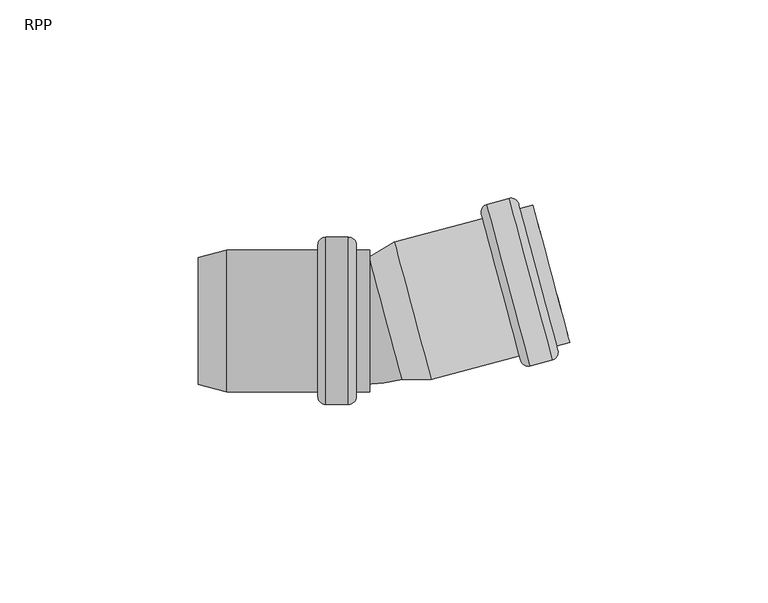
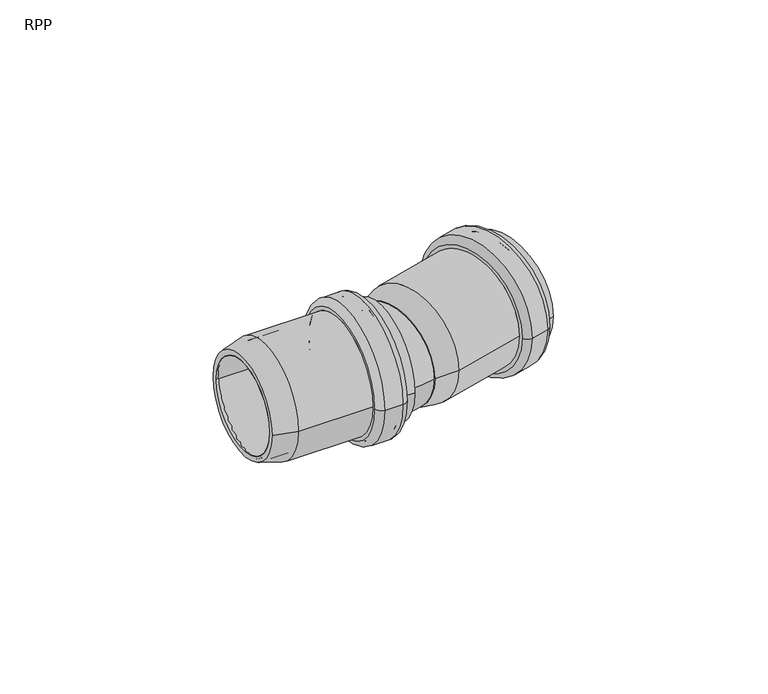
"""IFC4 building model written with IfcOpenShell, lengths in millimetres: pipe fitting geometry, RAUPIANO PLUS Bend : RPP."""

from ifc_helpers import new_model, si_unit, point, frame, origin, place, context, project, spatial, polyline, circle_curve, ellipse_curve, trimmed, source, transform, mapped, element, save
from ifc_brep_helpers import plane_surface, cylinder_surface, revolved_surface, advanced_brep


def rpp_e562054b(model_context):
    return source(origin(), model_context, "Body", "AdvancedBrep", [
        advanced_brep(
        [(-12.93305, -16.3, 0.0), (-12.93305, 16.3, 0.0), (-37.3315094, 16.3, 0.0), (-37.3315094, -16.3, 0.0), (-12.43305, -19.5, 0.0), (-12.43305, 19.5, 0.0), (-12.93305, 19.0, 0.0), (-12.93305, -19.0, 0.0), (-6.93305, -19.5, 0.0), (-6.93305, 19.5, 0.0), (-6.43305, -19.0, 0.0), (-6.43305, 19.0, 0.0), (-1.43305, -16.3, 0.0), (-1.43305, 16.3, 0.0), (-6.43305, 16.3, 0.0), (-6.43305, -16.3, 0.0), (-4.83305, -17.9, 0.0), (-4.83305, 17.9, 0.0), (-1.43305, 17.9, 0.0), (-1.43305, -17.9, 0.0), (-6.83305, -21.1, 0.0), (-6.83305, 21.1, 0.0), (-4.83305, 19.1, 0.0), (-4.83305, -19.1, 0.0), (-12.53305, -21.1, 0.0), (-12.53305, 21.1, 0.0), (-14.53305, -19.1, 0.0), (-14.53305, 19.1, 0.0), (-37.5421534, -17.9, 0.0), (-37.5421534, 17.9, 0.0), (-14.53305, 17.9, 0.0), (-14.53305, -17.9, 0.0), (-44.63305, -16.0, 0.0), (-44.63305, 16.0, 0.0), (-44.63305, 14.3435581, 0.0), (-44.63305, -14.3435581, 0.0)],
        [
            (0, 1, circle_curve(frame((-12.93305, 0.0, 0.0), z_axis=(1.0, 0.0, 0.0), x_axis=(0.0, 1.0, 0.0)), 16.3)),
            (1, 2),
            (2, 3, circle_curve(frame((-37.3315094, 0.0, 0.0), z_axis=(-1.0, 0.0, 0.0), x_axis=(0.0, 1.0, 0.0)), 16.3)),
            (3, 0),
            (4, 5, circle_curve(frame((-12.43305, 0.0, 0.0), z_axis=(1.0, 0.0, 0.0), x_axis=(0.0, 1.0, 0.0)), 19.5)),
            (5, 6, circle_curve(frame((-12.43305, 19.0, 0.0), z_axis=(0.0, 0.0, 1.0), x_axis=(0.0, -1.0, 0.0)), 0.5)),
            (6, 7, circle_curve(frame((-12.93305, 0.0, 0.0), z_axis=(-1.0, 0.0, 0.0), x_axis=(0.0, 1.0, 0.0)), 19.0)),
            (7, 4, circle_curve(frame((-12.43305, -19.0, 0.0), z_axis=(0.0, 0.0, 1.0), x_axis=(0.0, 1.0, 0.0)), 0.5)),
            (8, 9, circle_curve(frame((-6.93305, 0.0, 0.0), z_axis=(1.0, 0.0, 0.0), x_axis=(0.0, 1.0, 0.0)), 19.5)),
            (9, 5),
            (4, 8),
            (10, 11, circle_curve(frame((-6.43305, 0.0, 0.0), z_axis=(1.0, 0.0, 0.0), x_axis=(0.0, 1.0, 0.0)), 19.0)),
            (11, 9, circle_curve(frame((-6.93305, 19.0, 0.0), z_axis=(0.0, 0.0, 1.0), x_axis=(0.0, -1.0, 0.0)), 0.5)),
            (8, 10, circle_curve(frame((-6.93305, -19.0, 0.0), z_axis=(0.0, 0.0, 1.0), x_axis=(0.0, 1.0, 0.0)), 0.5)),
            (12, 13, circle_curve(frame((-1.43305, 0.0, 0.0), z_axis=(1.0, 0.0, 0.0), x_axis=(0.0, 1.0, 0.0)), 16.3)),
            (13, 14),
            (14, 15, circle_curve(frame((-6.43305, 0.0, 0.0), z_axis=(-1.0, 0.0, 0.0), x_axis=(0.0, 1.0, 0.0)), 16.3)),
            (15, 12),
            (16, 17, circle_curve(frame((-4.83305, 0.0, 0.0), z_axis=(1.0, 0.0, 0.0), x_axis=(0.0, 1.0, 0.0)), 17.9)),
            (17, 18),
            (18, 19, circle_curve(frame((-1.43305, 0.0, 0.0), z_axis=(-1.0, 0.0, 0.0), x_axis=(0.0, 1.0, 0.0)), 17.9)),
            (19, 16),
            (20, 21, circle_curve(frame((-6.83305, 0.0, 0.0), z_axis=(1.0, 0.0, 0.0), x_axis=(0.0, 1.0, 0.0)), 21.1)),
            (21, 22, circle_curve(frame((-6.83305, 19.1, 0.0), z_axis=(0.0, 0.0, -1.0), x_axis=(0.0, -1.0, 0.0)), 2.0)),
            (22, 23, circle_curve(frame((-4.83305, 0.0, 0.0), z_axis=(-1.0, 0.0, 0.0), x_axis=(0.0, 1.0, 0.0)), 19.1)),
            (23, 20, circle_curve(frame((-6.83305, -19.1, 0.0), z_axis=(0.0, 0.0, -1.0), x_axis=(0.0, 1.0, 0.0)), 2.0)),
            (24, 25, circle_curve(frame((-12.53305, 0.0, 0.0), z_axis=(1.0, 0.0, 0.0), x_axis=(0.0, 1.0, 0.0)), 21.1)),
            (25, 21),
            (20, 24),
            (26, 27, circle_curve(frame((-14.53305, 0.0, 0.0), z_axis=(1.0, 0.0, 0.0), x_axis=(0.0, 1.0, 0.0)), 19.1)),
            (27, 25, circle_curve(frame((-12.53305, 19.1, 0.0), z_axis=(0.0, 0.0, -1.0), x_axis=(0.0, -1.0, 0.0)), 2.0)),
            (24, 26, circle_curve(frame((-12.53305, -19.1, 0.0), z_axis=(0.0, 0.0, -1.0), x_axis=(0.0, 1.0, 0.0)), 2.0)),
            (28, 29, circle_curve(frame((-37.5421534, 0.0, 0.0), z_axis=(1.0, 0.0, 0.0), x_axis=(0.0, 1.0, 0.0)), 17.9)),
            (29, 30),
            (30, 31, circle_curve(frame((-14.53305, 0.0, 0.0), z_axis=(-1.0, 0.0, 0.0), x_axis=(0.0, 1.0, 0.0)), 17.9)),
            (31, 28),
            (32, 33, circle_curve(frame((-44.63305, 0.0, 0.0), z_axis=(1.0, 0.0, 0.0), x_axis=(0.0, 1.0, 0.0)), 16.0)),
            (33, 29),
            (28, 32),
            (2, 34),
            (34, 35, circle_curve(frame((-44.63305, 0.0, 0.0), z_axis=(-1.0, 0.0, 0.0), x_axis=(0.0, 1.0, 0.0)), 14.3435581)),
            (35, 3),
            (1, 0, circle_curve(frame((-12.93305, 0.0, 0.0), z_axis=(1.0, 0.0, 0.0), x_axis=(0.0, -1.0, 0.0)), 16.3)),
            (3, 2, circle_curve(frame((-37.3315094, 0.0, 0.0), z_axis=(-1.0, 0.0, 0.0), x_axis=(0.0, -1.0, 0.0)), 16.3)),
            (6, 7, circle_curve(frame((-12.93305, 0.0, 0.0), z_axis=(1.0, 0.0, 0.0), x_axis=(0.0, -1.0, 0.0)), 19.0)),
            (5, 4, circle_curve(frame((-12.43305, 0.0, 0.0), z_axis=(1.0, 0.0, 0.0), x_axis=(0.0, -1.0, 0.0)), 19.5)),
            (9, 8, circle_curve(frame((-6.93305, 0.0, 0.0), z_axis=(1.0, 0.0, 0.0), x_axis=(0.0, -1.0, 0.0)), 19.5)),
            (11, 10, circle_curve(frame((-6.43305, 0.0, 0.0), z_axis=(1.0, 0.0, 0.0), x_axis=(0.0, -1.0, 0.0)), 19.0)),
            (14, 15, circle_curve(frame((-6.43305, 0.0, 0.0), z_axis=(1.0, 0.0, 0.0), x_axis=(0.0, -1.0, 0.0)), 16.3)),
            (13, 12, circle_curve(frame((-1.43305, 0.0, 0.0), z_axis=(1.0, 0.0, 0.0), x_axis=(0.0, -1.0, 0.0)), 16.3)),
            (18, 19, circle_curve(frame((-1.43305, 0.0, 0.0), z_axis=(1.0, 0.0, 0.0), x_axis=(0.0, -1.0, 0.0)), 17.9)),
            (17, 16, circle_curve(frame((-4.83305, 0.0, 0.0), z_axis=(1.0, 0.0, 0.0), x_axis=(0.0, -1.0, 0.0)), 17.9)),
            (22, 23, circle_curve(frame((-4.83305, 0.0, 0.0), z_axis=(1.0, 0.0, 0.0), x_axis=(0.0, -1.0, 0.0)), 19.1)),
            (21, 20, circle_curve(frame((-6.83305, 0.0, 0.0), z_axis=(1.0, 0.0, 0.0), x_axis=(0.0, -1.0, 0.0)), 21.1)),
            (25, 24, circle_curve(frame((-12.53305, 0.0, 0.0), z_axis=(1.0, 0.0, 0.0), x_axis=(0.0, -1.0, 0.0)), 21.1)),
            (27, 26, circle_curve(frame((-14.53305, 0.0, 0.0), z_axis=(1.0, 0.0, 0.0), x_axis=(0.0, -1.0, 0.0)), 19.1)),
            (30, 31, circle_curve(frame((-14.53305, 0.0, 0.0), z_axis=(1.0, 0.0, 0.0), x_axis=(0.0, -1.0, 0.0)), 17.9)),
            (29, 28, circle_curve(frame((-37.5421534, 0.0, 0.0), z_axis=(1.0, 0.0, 0.0), x_axis=(0.0, -1.0, 0.0)), 17.9)),
            (33, 32, circle_curve(frame((-44.63305, 0.0, 0.0), z_axis=(1.0, 0.0, 0.0), x_axis=(0.0, -1.0, 0.0)), 16.0)),
            (34, 35, circle_curve(frame((-44.63305, 0.0, 0.0), z_axis=(1.0, 0.0, 0.0), x_axis=(0.0, -1.0, 0.0)), 14.3435581)),
        ],
        [
            revolved_surface(polyline([(-37.3315094, 16.3, 0.0), (-12.933050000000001, 16.3, 0.0)]), (-44.63305, 0.0, 0.0), (-1.0, 0.0, 0.0)),
            revolved_surface(trimmed(ellipse_curve(frame((-12.43305, 19.0, 0.0), z_axis=(0.0, 0.0, -1.0), x_axis=(0.0, -1.0, 0.0)), 0.5, 0.5), [point((-12.93305, 19.0, 0.0))], [point((-12.43305, 19.5, 0.0))], True, "CARTESIAN"), (-44.63305, 0.0, 0.0), (-1.0, 0.0, 0.0)),
            revolved_surface(polyline([(-12.433050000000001, 19.5, 0.0), (-6.9330500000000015, 19.5, 0.0)]), (-44.63305, 0.0, 0.0), (-1.0, 0.0, 0.0)),
            revolved_surface(trimmed(ellipse_curve(frame((-6.93305, 19.0, 0.0), z_axis=(0.0, 0.0, -1.0), x_axis=(0.0, -1.0, 0.0)), 0.5, 0.5), [point((-6.93305, 19.5, 0.0))], [point((-6.43305, 19.0, 0.0))], True, "CARTESIAN"), (-44.63305, 0.0, 0.0), (-1.0, 0.0, 0.0)),
            revolved_surface(polyline([(-6.4330500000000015, 16.3, 0.0), (-1.4330500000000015, 16.3, 0.0)]), (-44.63305, 0.0, 0.0), (-1.0, 0.0, 0.0)),
            cylinder_surface(frame((-44.63305, 0.0, 0.0), z_axis=(-1.0, 0.0, 0.0), x_axis=(0.0, 1.0, 0.0)), 17.9),
            revolved_surface(trimmed(ellipse_curve(frame((-6.83305, 19.1, 0.0), z_axis=(0.0, 0.0, 1.0), x_axis=(0.0, -1.0, 0.0)), 2.0, 2.0), [point((-4.83305, 19.1, 0.0))], [point((-6.83305, 21.1, 0.0))], True, "CARTESIAN"), (-44.63305, 0.0, 0.0), (-1.0, 0.0, 0.0)),
            cylinder_surface(frame((-44.63305, 0.0, 0.0), z_axis=(-1.0, 0.0, 0.0), x_axis=(0.0, 1.0, 0.0)), 21.1),
            revolved_surface(trimmed(ellipse_curve(frame((-12.53305, 19.1, 0.0), z_axis=(0.0, 0.0, 1.0), x_axis=(0.0, -1.0, 0.0)), 2.0, 2.0), [point((-12.53305, 21.1, 0.0))], [point((-14.53305, 19.1, 0.0))], True, "CARTESIAN"), (-44.63305, 0.0, 0.0), (-1.0, 0.0, 0.0)),
            revolved_surface(polyline([(-37.5421534, 17.9, 0.0), (-44.63305, 16.0, 0.0)]), (-44.63305, 0.0, 0.0), (-1.0, 0.0, 0.0)),
            revolved_surface(polyline([(-44.63305, 14.3435581, 0.0), (-37.3315094, 16.3, 0.0)]), (-44.63305, 0.0, 0.0), (-1.0, 0.0, 0.0)),
            revolved_surface(polyline([(-37.3315094, -16.3, 0.0), (-12.933050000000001, -16.3, 0.0)]), (-44.63305, 0.0, 0.0), (-1.0, 0.0, 0.0)),
            plane_surface(frame((-12.93305, 0.0, 0.0), z_axis=(1.0, 0.0, 0.0), x_axis=(0.0, -1.0, 0.0))),
            revolved_surface(trimmed(ellipse_curve(frame((-12.43305, -19.0, 0.0), z_axis=(0.0, 0.0, 1.0), x_axis=(0.0, 1.0, 0.0)), 0.5, 0.5), [point((-12.93305, -19.0, 0.0))], [point((-12.43305, -19.5, 0.0))], True, "CARTESIAN"), (-44.63305, 0.0, 0.0), (-1.0, 0.0, 0.0)),
            revolved_surface(polyline([(-12.433050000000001, -19.5, 0.0), (-6.9330500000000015, -19.5, 0.0)]), (-44.63305, 0.0, 0.0), (-1.0, 0.0, 0.0)),
            revolved_surface(trimmed(ellipse_curve(frame((-6.93305, -19.0, 0.0), z_axis=(0.0, 0.0, 1.0), x_axis=(0.0, 1.0, 0.0)), 0.5, 0.5), [point((-6.93305, -19.5, 0.0))], [point((-6.43305, -19.0, 0.0))], True, "CARTESIAN"), (-44.63305, 0.0, 0.0), (-1.0, 0.0, 0.0)),
            plane_surface(frame((-6.43305, 0.0, 0.0), z_axis=(-1.0, 0.0, 0.0), x_axis=(0.0, -1.0, 0.0))),
            revolved_surface(polyline([(-6.4330500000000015, -16.3, 0.0), (-1.4330500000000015, -16.3, 0.0)]), (-44.63305, 0.0, 0.0), (-1.0, 0.0, 0.0)),
            plane_surface(frame((-1.43305, 0.0, 0.0), z_axis=(1.0, 0.0, 0.0), x_axis=(0.0, -1.0, 0.0))),
            cylinder_surface(frame((-44.63305, 0.0, 0.0), z_axis=(-1.0, 0.0, 0.0), x_axis=(0.0, -1.0, 0.0)), 17.9),
            plane_surface(frame((-4.83305, 0.0, 0.0), z_axis=(1.0, 0.0, 0.0), x_axis=(0.0, -1.0, 0.0))),
            revolved_surface(trimmed(ellipse_curve(frame((-6.83305, -19.1, 0.0), z_axis=(0.0, 0.0, -1.0), x_axis=(0.0, 1.0, 0.0)), 2.0, 2.0), [point((-4.83305, -19.1, 0.0))], [point((-6.83305, -21.1, 0.0))], True, "CARTESIAN"), (-44.63305, 0.0, 0.0), (-1.0, 0.0, 0.0)),
            cylinder_surface(frame((-44.63305, 0.0, 0.0), z_axis=(-1.0, 0.0, 0.0), x_axis=(0.0, -1.0, 0.0)), 21.1),
            revolved_surface(trimmed(ellipse_curve(frame((-12.53305, -19.1, 0.0), z_axis=(0.0, 0.0, -1.0), x_axis=(0.0, 1.0, 0.0)), 2.0, 2.0), [point((-12.53305, -21.1, 0.0))], [point((-14.53305, -19.1, 0.0))], True, "CARTESIAN"), (-44.63305, 0.0, 0.0), (-1.0, 0.0, 0.0)),
            plane_surface(frame((-14.53305, 0.0, 0.0), z_axis=(-1.0, 0.0, 0.0), x_axis=(0.0, -1.0, 0.0))),
            revolved_surface(polyline([(-37.5421534, -17.9, 0.0), (-44.63305, -16.0, 0.0)]), (-44.63305, 0.0, 0.0), (-1.0, 0.0, 0.0)),
            plane_surface(frame((-44.63305, 0.0, 0.0), z_axis=(-1.0, 0.0, 0.0), x_axis=(0.0, -1.0, 0.0))),
            revolved_surface(polyline([(-44.63305, -14.3435581, 0.0), (-37.3315094, -16.3, 0.0)]), (-44.63305, 0.0, 0.0), (-1.0, 0.0, 0.0)),
        ],
        [
            (0, [[1, 2, 3, 4]]),
            (1, [[5, 6, 7, 8]]),
            (2, [[9, 10, -5, 11]]),
            (3, [[12, 13, -9, 14]]),
            (4, [[15, 16, 17, 18]]),
            (5, [[19, 20, 21, 22]]),
            (6, [[23, 24, 25, 26]]),
            (7, [[27, 28, -23, 29]]),
            (8, [[30, 31, -27, 32]]),
            (5, [[33, 34, 35, 36]]),
            (9, [[37, 38, -33, 39]]),
            (10, [[-3, 40, 41, 42]]),
            (11, [[43, -4, 44, -2]]),
            (12, [[45, -7], [-43, -1]]),
            (13, [[46, -8, -45, -6]]),
            (14, [[47, -11, -46, -10]]),
            (15, [[48, -14, -47, -13]]),
            (16, [[-48, -12], [49, -17]]),
            (17, [[50, -18, -49, -16]]),
            (18, [[51, -21], [-50, -15]]),
            (19, [[52, -22, -51, -20]]),
            (20, [[53, -25], [-52, -19]]),
            (21, [[54, -26, -53, -24]]),
            (22, [[55, -29, -54, -28]]),
            (23, [[56, -32, -55, -31]]),
            (24, [[-56, -30], [57, -35]]),
            (19, [[58, -36, -57, -34]]),
            (25, [[59, -39, -58, -38]]),
            (26, [[-59, -37], [60, -41]]),
            (27, [[-44, -42, -60, -40]]),
        ],
    ),
        advanced_brep(
        [(6.255717, -13.1733297, 0.0), (-1.1690551, 14.5362967, 0.0), (5.3773271, 18.3158522, 0.0), (13.814828, -13.1733297, 0.0), (14.025472, -14.7733297, 0.0), (4.7597501, 19.8068148, 0.0), (-1.5977738, 16.1362967, 0.0), (6.6844357, -14.7733297, 0.0), (36.2505592, -8.8181356, 0.0), (26.9848374, 25.762009, 0.0), (44.516409, -9.9161916, 0.0), (33.5942453, 30.8458783, 0.0), (28.0884681, 29.3706098, 0.0), (39.0106318, -11.3914601, 0.0), (48.9041876, -5.4276061, 0.0), (39.6384657, 29.1525385, 0.0), (36.3543179, 28.2725538, 0.0), (45.6200397, -6.3075908, 0.0), (43.6604479, -5.17622, 0.0), (35.2229471, 26.312962, 0.0), (40.0525762, 27.6070572, 0.0), (48.4900771, -3.8821247, 0.0), (38.6931139, -9.8200969, 0.0), (28.5991712, 27.8510103, 0.0), (33.9117632, 29.2745151, 0.0), (44.005706, -8.3965921, 0.0), (28.9444292, 24.6306382, 0.0), (37.3819301, -6.8585438, 0.0), (26.6742546, 26.92112, 0.0), (36.5611421, -9.9772466, 0.0), (45.9306226, -7.4667018, 0.0), (36.0437351, 29.4316648, 0.0), (34.5241357, 28.9209617, 0.0), (44.3592594, -7.7842197, 0.0), (38.0807415, -9.4665435, 0.0), (28.2456178, 27.2386379, 0.0)],
        [
            (0, 1, circle_curve(frame((2.543331, 0.6814835, 0.0), z_axis=(-0.965925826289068, -0.25881904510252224, 0.0), x_axis=(-0.25881904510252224, 0.965925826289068, 0.0)), 14.3435581)),
            (1, 2),
            (2, 3, circle_curve(frame((9.5960775, 2.5712612, 0.0), z_axis=(0.965925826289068, 0.25881904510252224, 0.0), x_axis=(-0.25881904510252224, 0.965925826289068, 0.0)), 16.3)),
            (3, 0),
            (4, 5, circle_curve(frame((9.392611, 2.5167425, 0.0), z_axis=(-0.965925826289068, -0.25881904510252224, 0.0), x_axis=(-0.25881904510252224, 0.965925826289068, 0.0)), 17.9)),
            (5, 6),
            (6, 7, circle_curve(frame((2.543331, 0.6814835, 0.0), z_axis=(0.965925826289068, 0.25881904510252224, 0.0), x_axis=(-0.25881904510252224, 0.965925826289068, 0.0)), 16.0)),
            (7, 4),
            (8, 9, circle_curve(frame((31.6176983, 8.4719367, 0.0), z_axis=(-0.965925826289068, -0.25881904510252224, 0.0), x_axis=(-0.25881904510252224, 0.965925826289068, 0.0)), 17.9)),
            (9, 5),
            (4, 8),
            (10, 11, circle_curve(frame((39.0553272, 10.4648434, 0.0), z_axis=(-0.965925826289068, -0.25881904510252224, 0.0), x_axis=(-0.25881904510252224, 0.965925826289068, 0.0)), 21.1)),
            (11, 12),
            (12, 13, circle_curve(frame((33.54955, 8.9895748, 0.0), z_axis=(0.965925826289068, 0.25881904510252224, 0.0), x_axis=(-0.25881904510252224, 0.965925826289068, 0.0)), 21.1)),
            (13, 10),
            (14, 15, circle_curve(frame((44.2713266, 11.8624662, 0.0), z_axis=(-0.965925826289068, -0.25881904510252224, 0.0), x_axis=(-0.25881904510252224, 0.965925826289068, 0.0)), 17.9)),
            (15, 16),
            (16, 17, circle_curve(frame((40.9871788, 10.9824815, 0.0), z_axis=(0.965925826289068, 0.25881904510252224, 0.0), x_axis=(-0.25881904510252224, 0.965925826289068, 0.0)), 17.9)),
            (17, 14),
            (18, 19, circle_curve(frame((39.4416975, 10.568371, 0.0), z_axis=(-0.965925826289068, -0.25881904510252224, 0.0), x_axis=(-0.25881904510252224, 0.965925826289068, 0.0)), 16.3)),
            (19, 20),
            (20, 21, circle_curve(frame((44.2713266, 11.8624662, 0.0), z_axis=(0.965925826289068, 0.25881904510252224, 0.0), x_axis=(-0.25881904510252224, 0.965925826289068, 0.0)), 16.3)),
            (21, 18),
            (22, 23, circle_curve(frame((33.6461426, 9.0154567, 0.0), z_axis=(-0.965925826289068, -0.25881904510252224, 0.0), x_axis=(-0.25881904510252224, 0.965925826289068, 0.0)), 19.5)),
            (23, 24),
            (24, 25, circle_curve(frame((38.9587346, 10.4389615, 0.0), z_axis=(0.965925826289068, 0.25881904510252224, 0.0), x_axis=(-0.25881904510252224, 0.965925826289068, 0.0)), 19.5)),
            (25, 22),
            (2, 26),
            (26, 27, circle_curve(frame((33.1631796, 8.8860472, 0.0), z_axis=(0.965925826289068, 0.25881904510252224, 0.0), x_axis=(-0.25881904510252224, 0.965925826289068, 0.0)), 16.3)),
            (27, 3),
            (1, 0, circle_curve(frame((2.543331, 0.6814835, 0.0), z_axis=(-0.965925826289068, -0.25881904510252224, 0.0), x_axis=(0.25881904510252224, -0.965925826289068, 0.0)), 14.3435581)),
            (3, 2, circle_curve(frame((9.5960775, 2.5712612, 0.0), z_axis=(0.965925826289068, 0.25881904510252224, 0.0), x_axis=(0.25881904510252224, -0.965925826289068, 0.0)), 16.3)),
            (6, 7, circle_curve(frame((2.543331, 0.6814835, 0.0), z_axis=(-0.965925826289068, -0.25881904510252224, 0.0), x_axis=(0.25881904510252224, -0.965925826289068, 0.0)), 16.0)),
            (5, 4, circle_curve(frame((9.392611, 2.5167425, 0.0), z_axis=(-0.965925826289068, -0.25881904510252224, 0.0), x_axis=(0.25881904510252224, -0.965925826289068, 0.0)), 17.9)),
            (9, 8, circle_curve(frame((31.6176983, 8.4719367, 0.0), z_axis=(-0.965925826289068, -0.25881904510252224, 0.0), x_axis=(0.25881904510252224, -0.965925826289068, 0.0)), 17.9)),
            (28, 29, circle_curve(frame((31.6176983, 8.4719367, 0.0), z_axis=(-0.965925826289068, -0.25881904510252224, 0.0), x_axis=(0.25881904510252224, -0.965925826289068, 0.0)), 19.1)),
            (29, 28, circle_curve(frame((31.6176983, 8.4719367, 0.0), z_axis=(-0.965925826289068, -0.25881904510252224, 0.0), x_axis=(-0.25881904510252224, 0.965925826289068, 0.0)), 19.1)),
            (11, 10, circle_curve(frame((39.0553272, 10.4648434, 0.0), z_axis=(-0.965925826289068, -0.25881904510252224, 0.0), x_axis=(0.25881904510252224, -0.965925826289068, 0.0)), 21.1)),
            (13, 12, circle_curve(frame((33.54955, 8.9895748, 0.0), z_axis=(0.965925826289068, 0.25881904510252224, 0.0), x_axis=(0.25881904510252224, -0.965925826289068, 0.0)), 21.1)),
            (30, 31, circle_curve(frame((40.9871788, 10.9824815, 0.0), z_axis=(0.965925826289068, 0.25881904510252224, 0.0), x_axis=(0.25881904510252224, -0.965925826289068, 0.0)), 19.1)),
            (31, 30, circle_curve(frame((40.9871788, 10.9824815, 0.0), z_axis=(0.965925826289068, 0.25881904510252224, 0.0), x_axis=(-0.25881904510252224, 0.965925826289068, 0.0)), 19.1)),
            (16, 17, circle_curve(frame((40.9871788, 10.9824815, 0.0), z_axis=(-0.965925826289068, -0.25881904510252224, 0.0), x_axis=(0.25881904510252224, -0.965925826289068, 0.0)), 17.9)),
            (15, 14, circle_curve(frame((44.2713266, 11.8624662, 0.0), z_axis=(-0.965925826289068, -0.25881904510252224, 0.0), x_axis=(0.25881904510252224, -0.965925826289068, 0.0)), 17.9)),
            (20, 21, circle_curve(frame((44.2713266, 11.8624662, 0.0), z_axis=(-0.965925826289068, -0.25881904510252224, 0.0), x_axis=(0.25881904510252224, -0.965925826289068, 0.0)), 16.3)),
            (19, 18, circle_curve(frame((39.4416975, 10.568371, 0.0), z_axis=(-0.965925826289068, -0.25881904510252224, 0.0), x_axis=(0.25881904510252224, -0.965925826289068, 0.0)), 16.3)),
            (32, 33, circle_curve(frame((39.4416975, 10.568371, 0.0), z_axis=(-0.965925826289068, -0.25881904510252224, 0.0), x_axis=(0.25881904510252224, -0.965925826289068, 0.0)), 19.0)),
            (33, 32, circle_curve(frame((39.4416975, 10.568371, 0.0), z_axis=(-0.965925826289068, -0.25881904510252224, 0.0), x_axis=(-0.25881904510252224, 0.965925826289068, 0.0)), 19.0)),
            (23, 22, circle_curve(frame((33.6461426, 9.0154567, 0.0), z_axis=(-0.965925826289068, -0.25881904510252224, 0.0), x_axis=(0.25881904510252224, -0.965925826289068, 0.0)), 19.5)),
            (25, 24, circle_curve(frame((38.9587346, 10.4389615, 0.0), z_axis=(0.965925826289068, 0.25881904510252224, 0.0), x_axis=(0.25881904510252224, -0.965925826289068, 0.0)), 19.5)),
            (34, 35, circle_curve(frame((33.1631796, 8.8860472, 0.0), z_axis=(0.965925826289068, 0.25881904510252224, 0.0), x_axis=(0.25881904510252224, -0.965925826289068, 0.0)), 19.0)),
            (35, 34, circle_curve(frame((33.1631796, 8.8860472, 0.0), z_axis=(0.965925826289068, 0.25881904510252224, 0.0), x_axis=(-0.25881904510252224, 0.965925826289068, 0.0)), 19.0)),
            (26, 27, circle_curve(frame((33.1631796, 8.8860472, 0.0), z_axis=(-0.965925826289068, -0.25881904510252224, 0.0), x_axis=(0.25881904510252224, -0.965925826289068, 0.0)), 16.3)),
            (12, 28, circle_curve(frame((28.6061062, 27.4387581, 0.0), z_axis=(0.0, 0.0, 1.0000000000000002), x_axis=(0.25881904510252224, -0.965925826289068, 0.0)), 2.0)),
            (29, 13, circle_curve(frame((38.4929937, -9.4596085, 0.0), z_axis=(0.0, 0.0, 1.0000000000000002), x_axis=(-0.25881904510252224, 0.965925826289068, 0.0)), 2.0)),
            (31, 11, circle_curve(frame((34.1118834, 28.9140267, 0.0), z_axis=(0.0, 0.0, 1.0000000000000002), x_axis=(0.25881904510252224, -0.965925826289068, 0.0)), 2.0)),
            (10, 30, circle_curve(frame((43.9987709, -7.9843399, 0.0), z_axis=(0.0, 0.0, 1.0000000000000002), x_axis=(-0.25881904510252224, 0.965925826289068, 0.0)), 2.0)),
            (24, 32, circle_curve(frame((34.0411727, 28.7915522, 0.0), z_axis=(0.0, 0.0, -1.0000000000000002), x_axis=(0.25881904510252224, -0.965925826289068, 0.0)), 0.5)),
            (33, 25, circle_curve(frame((43.8762965, -7.9136292, 0.0), z_axis=(0.0, 0.0, -1.0000000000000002), x_axis=(-0.25881904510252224, 0.965925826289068, 0.0)), 0.5)),
            (35, 23, circle_curve(frame((28.7285807, 27.3680474, 0.0), z_axis=(0.0, 0.0, -1.0000000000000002), x_axis=(0.25881904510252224, -0.965925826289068, 0.0)), 0.5)),
            (22, 34, circle_curve(frame((38.5637044, -9.337134, 0.0), z_axis=(0.0, 0.0, -1.0000000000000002), x_axis=(-0.25881904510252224, 0.965925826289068, 0.0)), 0.5)),
        ],
        [
            revolved_surface(polyline([(5.3773271, 18.3158522, 0.0), (-1.1690551, 14.5362967, 0.0)]), (2.543331, 0.6814835, 0.0), (0.965925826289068, 0.25881904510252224, 0.0)),
            revolved_surface(polyline([(-1.5977738, 16.1362967, 0.0), (4.7597501, 19.8068148, 0.0)]), (2.543331, 0.6814835, 0.0), (0.965925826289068, 0.25881904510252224, 0.0)),
            cylinder_surface(frame((2.543331, 0.6814835, 0.0), z_axis=(0.965925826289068, 0.25881904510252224, 0.0), x_axis=(-0.25881904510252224, 0.965925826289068, 0.0)), 17.9),
            cylinder_surface(frame((2.543331, 0.6814835, 0.0), z_axis=(0.965925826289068, 0.25881904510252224, 0.0), x_axis=(-0.25881904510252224, 0.965925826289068, 0.0)), 21.1),
            revolved_surface(polyline([(40.05257623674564, 27.60705721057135, 0.0), (35.222947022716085, 26.312961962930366, 0.0)]), (2.543331, 0.6814835, 0.0), (0.965925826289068, 0.25881904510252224, 0.0)),
            revolved_surface(polyline([(33.91176324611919, 29.274515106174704, 0.0), (28.599171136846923, 27.85101034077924, 0.0)]), (2.543331, 0.6814835, 0.0), (0.965925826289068, 0.25881904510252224, 0.0)),
            revolved_surface(polyline([(28.944429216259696, 24.630638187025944, 0.0), (5.377327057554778, 18.315852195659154, 0.0)]), (2.543331, 0.6814835, 0.0), (0.965925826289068, 0.25881904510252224, 0.0)),
            revolved_surface(polyline([(13.814828, -13.1733297, 0.0), (6.255717, -13.1733297, 0.0)]), (2.543331, 0.6814835, 0.0), (0.965925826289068, 0.25881904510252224, 0.0)),
            plane_surface(frame((2.543331, 0.6814835, 0.0), z_axis=(-0.965925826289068, -0.25881904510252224, 0.0), x_axis=(0.25881904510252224, -0.965925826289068, 0.0))),
            revolved_surface(polyline([(6.6844357, -14.7733297, 0.0), (14.025472, -14.7733297, 0.0)]), (2.543331, 0.6814835, 0.0), (0.965925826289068, 0.25881904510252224, 0.0)),
            cylinder_surface(frame((2.543331, 0.6814835, 0.0), z_axis=(0.965925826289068, 0.25881904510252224, 0.0), x_axis=(0.25881904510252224, -0.965925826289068, 0.0)), 17.9),
            plane_surface(frame((31.6176983, 8.4719367, 0.0), z_axis=(-0.965925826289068, -0.25881904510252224, 0.0), x_axis=(0.25881904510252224, -0.965925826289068, 0.0))),
            cylinder_surface(frame((2.543331, 0.6814835, 0.0), z_axis=(0.965925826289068, 0.25881904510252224, 0.0), x_axis=(0.25881904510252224, -0.965925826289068, 0.0)), 21.1),
            plane_surface(frame((40.9871788, 10.9824815, 0.0), z_axis=(0.965925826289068, 0.25881904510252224, 0.0), x_axis=(0.25881904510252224, -0.965925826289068, 0.0))),
            plane_surface(frame((44.2713266, 11.8624662, 0.0), z_axis=(0.965925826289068, 0.25881904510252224, 0.0), x_axis=(0.25881904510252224, -0.965925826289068, 0.0))),
            revolved_surface(polyline([(48.49007710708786, -3.882124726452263, 0.0), (43.66044789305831, -5.176219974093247, 0.0)]), (2.543331, 0.6814835, 0.0), (0.965925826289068, 0.25881904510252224, 0.0)),
            plane_surface(frame((39.4416975, 10.568371, 0.0), z_axis=(-0.965925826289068, -0.25881904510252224, 0.0), x_axis=(0.25881904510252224, -0.965925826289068, 0.0))),
            revolved_surface(polyline([(44.00570600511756, -8.396592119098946, 0.0), (38.69311389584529, -9.820096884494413, 0.0)]), (2.543331, 0.6814835, 0.0), (0.965925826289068, 0.25881904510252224, 0.0)),
            plane_surface(frame((33.1631796, 8.8860472, 0.0), z_axis=(0.965925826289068, 0.25881904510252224, 0.0), x_axis=(0.25881904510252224, -0.965925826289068, 0.0))),
            revolved_surface(polyline([(37.38193008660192, -6.858543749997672, 0.0), (13.814827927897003, -13.17332974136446, 0.0)]), (2.543331, 0.6814835, 0.0), (0.965925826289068, 0.25881904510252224, 0.0)),
            revolved_surface(trimmed(ellipse_curve(frame((28.6061062, 27.4387581, 0.0), z_axis=(0.0, 0.0, -1.0000000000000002), x_axis=(0.25881904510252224, -0.965925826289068, 0.0)), 2.0, 2.0), [point((26.6742546, 26.92112, 0.0))], [point((28.0884681, 29.3706098, 0.0))], True, "CARTESIAN"), (2.543331, 0.6814835, 0.0), (0.965925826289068, 0.25881904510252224, 0.0)),
            revolved_surface(trimmed(ellipse_curve(frame((34.1118834, 28.9140267, 0.0), z_axis=(0.0, 0.0, -1.0000000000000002), x_axis=(0.25881904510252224, -0.965925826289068, 0.0)), 2.0, 2.0), [point((33.5942453, 30.8458783, 0.0))], [point((36.0437351, 29.4316648, 0.0))], True, "CARTESIAN"), (2.543331, 0.6814835, 0.0), (0.965925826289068, 0.25881904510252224, 0.0)),
            revolved_surface(trimmed(ellipse_curve(frame((34.0411727, 28.7915522, 0.0), z_axis=(0.0, 0.0, 1.0000000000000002), x_axis=(0.25881904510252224, -0.965925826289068, 0.0)), 0.5, 0.5), [point((34.5241357, 28.9209617, 0.0))], [point((33.9117632, 29.2745151, 0.0))], True, "CARTESIAN"), (2.543331, 0.6814835, 0.0), (0.965925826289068, 0.25881904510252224, 0.0)),
            revolved_surface(trimmed(ellipse_curve(frame((28.7285807, 27.3680474, 0.0), z_axis=(0.0, 0.0, 1.0000000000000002), x_axis=(0.25881904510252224, -0.965925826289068, 0.0)), 0.5, 0.5), [point((28.5991712, 27.8510103, 0.0))], [point((28.2456178, 27.2386379, 0.0))], True, "CARTESIAN"), (2.543331, 0.6814835, 0.0), (0.965925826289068, 0.25881904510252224, 0.0)),
            revolved_surface(trimmed(ellipse_curve(frame((38.4929937, -9.4596085, 0.0), z_axis=(0.0, 0.0, 1.0000000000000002), x_axis=(-0.2588190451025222, 0.965925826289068, 0.0)), 2.0, 2.0), [point((36.5611421, -9.9772466, 0.0))], [point((39.0106318, -11.3914601, 0.0))], True, "CARTESIAN"), (2.543331, 0.6814835, 0.0), (0.965925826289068, 0.25881904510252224, 0.0)),
            revolved_surface(trimmed(ellipse_curve(frame((43.9987709, -7.9843399, 0.0), z_axis=(0.0, 0.0, 1.0000000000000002), x_axis=(-0.2588190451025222, 0.965925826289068, 0.0)), 2.0, 2.0), [point((44.516409, -9.9161916, 0.0))], [point((45.9306226, -7.4667018, 0.0))], True, "CARTESIAN"), (2.543331, 0.6814835, 0.0), (0.965925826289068, 0.25881904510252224, 0.0)),
            revolved_surface(trimmed(ellipse_curve(frame((43.8762965, -7.9136292, 0.0), z_axis=(0.0, 0.0, -1.0000000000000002), x_axis=(-0.2588190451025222, 0.965925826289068, 0.0)), 0.5, 0.5), [point((44.3592594, -7.7842197, 0.0))], [point((44.005706, -8.3965921, 0.0))], True, "CARTESIAN"), (2.543331, 0.6814835, 0.0), (0.965925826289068, 0.25881904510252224, 0.0)),
            revolved_surface(trimmed(ellipse_curve(frame((38.5637044, -9.337134, 0.0), z_axis=(0.0, 0.0, -1.0000000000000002), x_axis=(-0.2588190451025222, 0.965925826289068, 0.0)), 0.5, 0.5), [point((38.6931139, -9.8200969, 0.0))], [point((38.0807415, -9.4665435, 0.0))], True, "CARTESIAN"), (2.543331, 0.6814835, 0.0), (0.965925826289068, 0.25881904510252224, 0.0)),
        ],
        [
            (0, [[1, 2, 3, 4]]),
            (1, [[5, 6, 7, 8]]),
            (2, [[9, 10, -5, 11]]),
            (3, [[12, 13, 14, 15]]),
            (2, [[16, 17, 18, 19]]),
            (4, [[20, 21, 22, 23]]),
            (5, [[24, 25, 26, 27]]),
            (6, [[-3, 28, 29, 30]]),
            (7, [[31, -4, 32, -2]]),
            (8, [[33, -7], [-31, -1]]),
            (9, [[34, -8, -33, -6]]),
            (10, [[35, -11, -34, -10]]),
            (11, [[36, 37], [-35, -9]]),
            (12, [[38, -15, 39, -13]]),
            (13, [[40, 41], [42, -18]]),
            (10, [[43, -19, -42, -17]]),
            (14, [[-43, -16], [44, -22]]),
            (15, [[45, -23, -44, -21]]),
            (16, [[46, 47], [-45, -20]]),
            (17, [[48, -27, 49, -25]]),
            (18, [[50, 51], [52, -29]]),
            (19, [[-32, -30, -52, -28]]),
            (20, [[-14, 53, -37, 54]]),
            (21, [[-41, 55, -12, 56]]),
            (22, [[-26, 57, -47, 58]]),
            (23, [[-51, 59, -24, 60]]),
            (24, [[-39, -54, -36, -53]]),
            (25, [[-40, -56, -38, -55]]),
            (26, [[-49, -58, -46, -57]]),
            (27, [[-50, -60, -48, -59]]),
        ],
    ),
        advanced_brep(
        [(-2.63305, 14.2, 0.0), (-2.63305, -14.2, 0.0), (-44.63305, -14.2, 0.0), (-44.63305, 14.2, 0.0), (-40.9009991, 16.0, 0.0), (-40.9009991, -16.0, 0.0), (-2.63305, -16.0, 0.0), (-2.63305, 16.0, 0.0), (-44.63305, 15.0, 0.0), (-44.63305, -15.0, 0.0)],
        [
            (0, 1, circle_curve(frame((-2.63305, 0.0, 0.0), z_axis=(1.0, 0.0, 0.0), x_axis=(0.0, -1.0, 0.0)), 14.2)),
            (1, 2),
            (2, 3, circle_curve(frame((-44.63305, 0.0, 0.0), z_axis=(-1.0, 0.0, 0.0), x_axis=(0.0, -1.0, 0.0)), 14.2)),
            (3, 0),
            (4, 5, circle_curve(frame((-40.9009991, 0.0, 0.0), z_axis=(1.0, 0.0, 0.0), x_axis=(0.0, -1.0, 0.0)), 16.0)),
            (5, 6),
            (6, 7, circle_curve(frame((-2.63305, 0.0, 0.0), z_axis=(-1.0, 0.0, 0.0), x_axis=(0.0, -1.0, 0.0)), 16.0)),
            (7, 4),
            (8, 9, circle_curve(frame((-44.63305, 0.0, 0.0), z_axis=(1.0, 0.0, 0.0), x_axis=(0.0, -1.0, 0.0)), 15.0)),
            (9, 5),
            (4, 8),
            (1, 0, circle_curve(frame((-2.63305, 0.0, 0.0), z_axis=(1.0, 0.0, 0.0), x_axis=(0.0, 1.0, 0.0)), 14.2)),
            (3, 2, circle_curve(frame((-44.63305, 0.0, 0.0), z_axis=(-1.0, 0.0, 0.0), x_axis=(0.0, 1.0, 0.0)), 14.2)),
            (6, 7, circle_curve(frame((-2.63305, 0.0, 0.0), z_axis=(1.0, 0.0, 0.0), x_axis=(0.0, 1.0, 0.0)), 16.0)),
            (5, 4, circle_curve(frame((-40.9009991, 0.0, 0.0), z_axis=(1.0, 0.0, 0.0), x_axis=(0.0, 1.0, 0.0)), 16.0)),
            (9, 8, circle_curve(frame((-44.63305, 0.0, 0.0), z_axis=(1.0, 0.0, 0.0), x_axis=(0.0, 1.0, 0.0)), 15.0)),
        ],
        [
            revolved_surface(polyline([(-44.63305, -14.2, 0.0), (-2.63305, -14.2, 0.0)]), (-2.63305, 0.0, 0.0), (-1.0, 0.0, 0.0)),
            cylinder_surface(frame((-2.63305, 0.0, 0.0), z_axis=(-1.0, 0.0, 0.0), x_axis=(0.0, -1.0, 0.0)), 16.0),
            revolved_surface(polyline([(-40.9009991, -16.0, 0.0), (-44.63305, -15.0, 0.0)]), (-2.63305, 0.0, 0.0), (-1.0, 0.0, 0.0)),
            revolved_surface(polyline([(-44.63305, 14.2, 0.0), (-2.63305, 14.2, 0.0)]), (-2.63305, 0.0, 0.0), (-1.0, 0.0, 0.0)),
            plane_surface(frame((-2.63305, 0.0, 0.0), z_axis=(1.0, 0.0, 0.0), x_axis=(0.0, 1.0, 0.0))),
            cylinder_surface(frame((-2.63305, 0.0, 0.0), z_axis=(-1.0, 0.0, 0.0), x_axis=(0.0, 1.0, 0.0)), 16.0),
            revolved_surface(polyline([(-40.9009991, 16.0, 0.0), (-44.63305, 15.0, 0.0)]), (-2.63305, 0.0, 0.0), (-1.0, 0.0, 0.0)),
            plane_surface(frame((-44.63305, 0.0, 0.0), z_axis=(-1.0, 0.0, 0.0), x_axis=(0.0, 1.0, 0.0))),
        ],
        [
            (0, [[1, 2, 3, 4]]),
            (1, [[5, 6, 7, 8]]),
            (2, [[9, 10, -5, 11]]),
            (3, [[12, -4, 13, -2]]),
            (4, [[14, -7], [-12, -1]]),
            (5, [[15, -8, -14, -6]]),
            (6, [[16, -11, -15, -10]]),
            (7, [[-16, -9], [-13, -3]]),
        ],
    ),
        advanced_brep(
        [(-2.63305, -16.0, 0.0), (-2.63305, 16.0, 0.0), (-2.63305, -14.2, 0.0), (-2.63305, 14.2, 0.0), (6.6844357, -14.7733297, 0.0), (-1.5977738, 16.1362967, 0.0), (6.2185614, -13.0346633, 0.0), (-1.1318995, 14.3976302, 0.0)],
        [
            (0, 1, circle_curve(frame((-2.63305, 0.0, 0.0), z_axis=(-1.0, 0.0, 0.0), x_axis=(0.0, 1.0, 0.0)), 16.0)),
            (1, 0, circle_curve(frame((-2.63305, 0.0, 0.0), z_axis=(-1.0, 0.0, 0.0), x_axis=(0.0, 1.0, 0.0)), 16.0)),
            (2, 3, circle_curve(frame((-2.63305, 0.0, 0.0), z_axis=(1.0, 0.0, 0.0), x_axis=(0.0, 1.0, 0.0)), 14.2)),
            (3, 2, circle_curve(frame((-2.63305, 0.0, 0.0), z_axis=(1.0, 0.0, 0.0), x_axis=(0.0, 1.0, 0.0)), 14.2)),
            (4, 5, circle_curve(frame((2.543331, 0.6814835, 0.0), z_axis=(0.9659258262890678, 0.25881904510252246, 0.0), x_axis=(-0.25881904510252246, 0.9659258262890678, 0.0)), 16.0)),
            (5, 4, circle_curve(frame((2.543331, 0.6814835, 0.0), z_axis=(0.9659258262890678, 0.25881904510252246, 0.0), x_axis=(-0.25881904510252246, 0.9659258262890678, 0.0)), 16.0)),
            (6, 7, circle_curve(frame((2.543331, 0.6814835, 0.0), z_axis=(-0.9659258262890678, -0.25881904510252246, 0.0), x_axis=(-0.25881904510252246, 0.9659258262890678, 0.0)), 14.2)),
            (7, 6, circle_curve(frame((2.543331, 0.6814835, 0.0), z_axis=(-0.9659258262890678, -0.25881904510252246, 0.0), x_axis=(-0.25881904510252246, 0.9659258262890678, 0.0)), 14.2)),
            (7, 3, circle_curve(frame((-2.63305, 20.0, 0.0), z_axis=(0.0, 0.0, -1.0), x_axis=(0.0, -1.0, 0.0)), 5.8)),
            (2, 6, circle_curve(frame((-2.63305, 20.0, 0.0), z_axis=(0.0, 0.0, 1.0), x_axis=(0.0, -1.0, 0.0)), 34.2)),
            (5, 1, circle_curve(frame((-2.63305, 20.0, 0.0), z_axis=(0.0, 0.0, -1.0), x_axis=(0.0, -1.0, 0.0)), 4.0)),
            (0, 4, circle_curve(frame((-2.63305, 20.0, 0.0), z_axis=(0.0, 0.0, 1.0), x_axis=(0.0, -1.0, 0.0)), 36.0)),
        ],
        [
            plane_surface(frame((-2.63305, 0.0, 0.0), z_axis=(-1.0, 0.0, 0.0), x_axis=(0.0, 0.0, 1.0))),
            plane_surface(frame((2.543331, 0.6814835, 0.0), z_axis=(0.9659258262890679, 0.2588190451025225, 0.0), x_axis=(0.0, 0.0, 1.0))),
            revolved_surface(trimmed(ellipse_curve(frame((-2.63305, 0.0, 0.0), z_axis=(1.0, 0.0, 0.0), x_axis=(0.0, 1.0, 0.0)), 14.2, 14.2), [point((-2.63305, -14.2, 0.0))], [point((-2.63305, 14.2, 0.0))], True, "CARTESIAN"), (-2.63305, 20.0, 0.0), (0.0, 0.0, 1.0)),
            revolved_surface(trimmed(ellipse_curve(frame((-2.63305, 0.0, 0.0), z_axis=(1.0, 0.0, 0.0), x_axis=(0.0, 1.0, 0.0)), 14.2, 14.2), [point((-2.63305, 14.2, 0.0))], [point((-2.63305, -14.2, 0.0))], True, "CARTESIAN"), (-2.63305, 20.0, 0.0), (0.0, 0.0, 1.0)),
            revolved_surface(trimmed(ellipse_curve(frame((-2.63305, 0.0, 0.0), z_axis=(-1.0, 0.0, 0.0), x_axis=(0.0, 1.0, 0.0)), 16.0, 16.0), [point((-2.63305, -16.0, 0.0))], [point((-2.63305, 16.0, 0.0))], True, "CARTESIAN"), (-2.63305, 20.0, 0.0), (0.0, 0.0, 1.0)),
            revolved_surface(trimmed(ellipse_curve(frame((-2.63305, 0.0, 0.0), z_axis=(-1.0, 0.0, 0.0), x_axis=(0.0, 1.0, 0.0)), 16.0, 16.0), [point((-2.63305, 16.0, 0.0))], [point((-2.63305, -16.0, 0.0))], True, "CARTESIAN"), (-2.63305, 20.0, 0.0), (0.0, 0.0, 1.0)),
        ],
        [
            (0, [[1, 2], [3, 4]]),
            (1, [[5, 6], [7, 8]]),
            (2, [[9, -3, 10, -8]]),
            (3, [[-10, -4, -9, -7]]),
            (4, [[11, -1, 12, -6]]),
            (5, [[-12, -2, -11, -5]]),
        ],
    ),
    ])


if __name__ == "__main__":
    model = new_model("IFC4")
    model_context = context("Model", 3, world=origin())
    ifc_project = project(units=[si_unit("LENGTHUNIT", "METRE", prefix="MILLI")], contexts=[model_context])
    site = spatial("IfcSite", under=ifc_project)
    building = spatial("IfcBuilding", under=site)
    placement = place(None, origin())
    rpp_shape = rpp_e562054b(model_context)
    element("IfcPipeFitting", 1, ObjectType="RAUPIANO PLUS Bend : RPP", at=placement, inside=building, context=model_context, shape_type="MappedRepresentation", body=[
        mapped(rpp_shape, transform((0.0, 0.0, 0.0), x_axis=(1.0, 0.0, 0.0), y_axis=(0.0, 1.0, 0.0), z_axis=(0.0, 0.0, 1.0))),
    ])
    save(model, "model.ifc")
